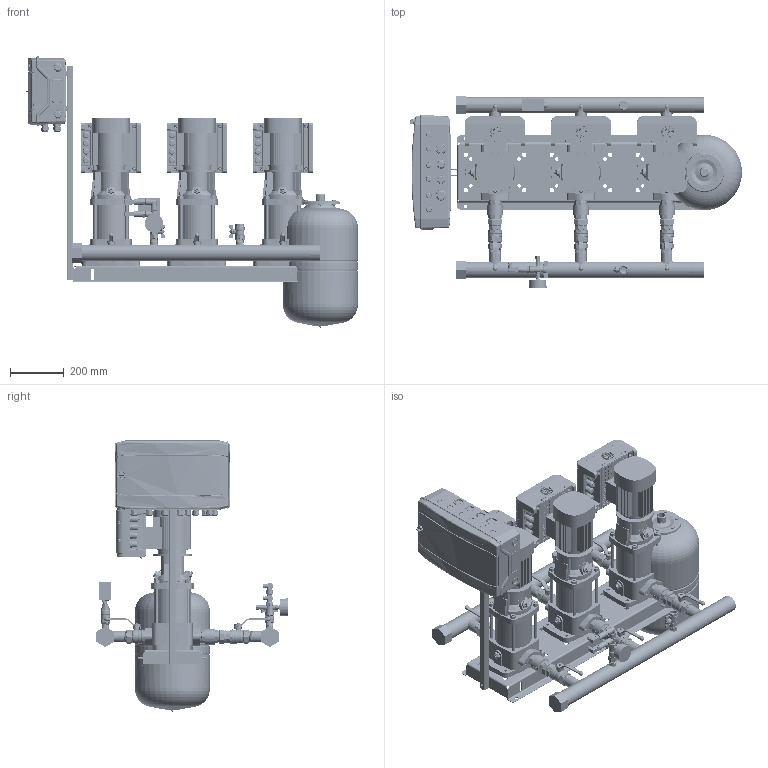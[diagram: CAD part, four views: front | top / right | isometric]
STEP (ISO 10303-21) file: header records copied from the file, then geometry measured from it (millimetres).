
FILE_DESCRIPTION(('CATIA V5 STEP Exchange','CAx-IF Rec.Pracs.--- Model Styling and Organization---1.4--- 2014-01-23','CAx-IF Rec.Pracs.---3D Tessellated Data Validation Properties---0.5---2014-09-14'),'2;1');
FILE_NAME('C:\Users\78432\YandexDisk\Drawings and 3D\3D Hydro Booster\Hydro-ME 3D\Hydro Models\Hydro ME 3 CRV1-xx\Hydro ME 3 CRVE1-9.stp','2023-09-21T07:51:52+00:00',('none'),('none'),'CATIA Version 5-6 Release 2019 SP6','CATIA V5 STEP AP242 v1','none');
FILE_SCHEMA(('AP242_MANAGED_MODEL_BASED_3D_ENGINEERING_MIM_LF {1 0 10303 442 1 1 4}'));
Products named in the file (46): Hydro ME 3 CRVE1-9; 92051012; CRV1-9 Set; CRV 1-9_A_Oval_0.55kW; Base; Oval Flange.1; Oval Flange.2; Sleeve; Pumphead; Staybolt; Staybolt.2; Staybolt.3; Staybolt.4; Plug; AirVent; Motor; 92807543_9022-04; Hydraulica NY DN32 1,25 PN16; DN32_FM_LV_47.303.32; 92814060_9013-04; SAJ PDH30 0,75-2,2kW; 97941451; 405801; 91040265; 91040272; 97941488; 00ID7526; Holder and CP 18mod; 92878909; Control ME (18mod); 2 sensors + manometer cpl.; manometr 16 bar; RPD-I-G1_2; 9021-01; 2070 1/2-1/2; _2020 1/2-1/2; 98594078; Tank 24L cpl.; DN20_FF_BF_47.300.20; WAV-24(D140 1'')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
Assembly tree (55 placements, depth 4):
  Hydro ME 3 CRVE1-9
    92051012
    CRV1-9 Set  x3
      CRV 1-9_A_Oval_0.55kW
        Base
        Oval Flange.1
        Oval Flange.2
        Sleeve
        Pumphead
        Staybolt
        Staybolt.2
        Staybolt.3
        Staybolt.4
        Plug
        AirVent
        Motor
      92807543_9022-04
      Hydraulica NY DN32 1,25 PN16
      DN32_FM_LV_47.303.32
      92814060_9013-04
      SAJ PDH30 0,75-2,2kW
    97941451  x2
      405801
      91040265
      91040272
      97941488
    00ID7526  x2
    Holder and CP 18mod
      92878909
      Control ME (18mod)
    2 sensors + manometer cpl.
      manometr 16 bar
      RPD-I-G1_2  x2
      9021-01
      2070 1/2-1/2
      _2020 1/2-1/2
      98594078
    Tank 24L cpl.
      DN20_FF_BF_47.300.20
      9021-03
    Relay cpl.
      Relay RD-2R
      DN20_FF_BF_47.300.20
      2530 3/4-1/2
      _2530 1/2-1/4
    91078139
  WAV-24(D140 1'')
Bounding box: 1236.82 x 712 x 1009.9 mm (x, y, z)
Volume: 58651858.5 mm3; surface area: 6908207.2 mm2
Topology: 215 solids, 251 shells, 24622 faces, 71863 edges, 48120 vertices
Faces by surface type: plane 10965, cylinder 6026, bspline 5529, cone 1553, torus 384, sphere 165
Entity records: 542620 total; most frequent: CARTESIAN_POINT 268318, ORIENTED_EDGE 70159, EDGE_CURVE 35561, DIRECTION 33140, VERTEX_POINT 23680, VECTOR 15487, LINE 15487, EDGE_LOOP 13893
